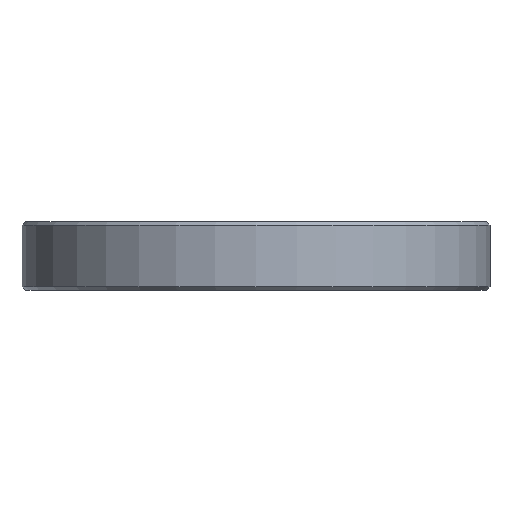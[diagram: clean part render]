
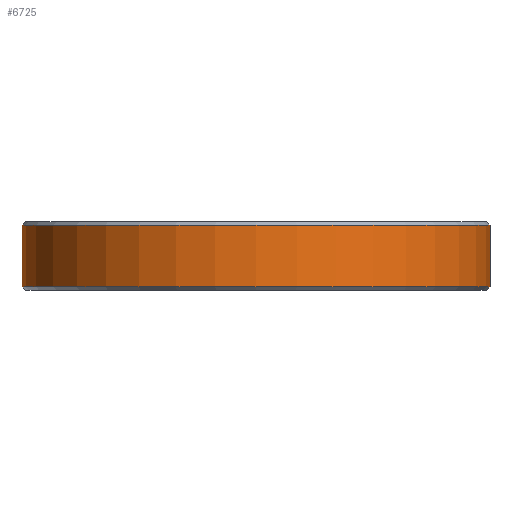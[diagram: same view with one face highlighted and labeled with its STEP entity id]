
A CAD part, front view. The second image highlights one B-rep face of the part: STEP entity #6725.
In plain terms, the highlighted cylindrical face has radius 68 mm (diameter 136 mm), a full revolution.
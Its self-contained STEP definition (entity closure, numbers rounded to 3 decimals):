
#145=CYLINDRICAL_SURFACE('',#7131,68.);
#465=FACE_OUTER_BOUND('',#845,.T.);
#845=EDGE_LOOP('',(#4444,#4445,#4446,#4447,#4448,#4449));
#1245=LINE('',#10683,#1566);
#1566=VECTOR('',#8217,68.);
#1886=CIRCLE('',#7128,68.);
#1887=CIRCLE('',#7129,68.);
#1889=CIRCLE('',#7132,68.);
#1890=CIRCLE('',#7133,68.);
#2579=VERTEX_POINT('',#10671);
#2580=VERTEX_POINT('',#10672);
#2582=VERTEX_POINT('',#10679);
#2583=VERTEX_POINT('',#10680);
#3323=EDGE_CURVE('',#2579,#2580,#1886,.T.);
#3324=EDGE_CURVE('',#2580,#2579,#1887,.T.);
#3327=EDGE_CURVE('',#2582,#2583,#1889,.T.);
#3328=EDGE_CURVE('',#2583,#2582,#1890,.T.);
#3329=EDGE_CURVE('',#2583,#2580,#1245,.T.);
#4444=ORIENTED_EDGE('',*,*,#3327,.F.);
#4445=ORIENTED_EDGE('',*,*,#3328,.F.);
#4446=ORIENTED_EDGE('',*,*,#3329,.T.);
#4447=ORIENTED_EDGE('',*,*,#3323,.F.);
#4448=ORIENTED_EDGE('',*,*,#3324,.F.);
#4449=ORIENTED_EDGE('',*,*,#3329,.F.);
#6725=ADVANCED_FACE('',(#465),#145,.T.);
#7128=AXIS2_PLACEMENT_3D('',#10673,#8204,#8205);
#7129=AXIS2_PLACEMENT_3D('',#10674,#8206,#8207);
#7131=AXIS2_PLACEMENT_3D('',#10678,#8211,#8212);
#7132=AXIS2_PLACEMENT_3D('',#10681,#8213,#8214);
#7133=AXIS2_PLACEMENT_3D('',#10682,#8215,#8216);
#8204=DIRECTION('center_axis',(0.,0.,-1.));
#8205=DIRECTION('ref_axis',(-1.,0.,0.));
#8206=DIRECTION('center_axis',(0.,0.,-1.));
#8207=DIRECTION('ref_axis',(-1.,0.,0.));
#8211=DIRECTION('center_axis',(0.,0.,1.));
#8212=DIRECTION('ref_axis',(1.,0.,0.));
#8213=DIRECTION('center_axis',(0.,0.,1.));
#8214=DIRECTION('ref_axis',(-1.,0.,0.));
#8215=DIRECTION('center_axis',(0.,0.,1.));
#8216=DIRECTION('ref_axis',(-1.,0.,0.));
#8217=DIRECTION('',(0.,0.,-1.));
#10671=CARTESIAN_POINT('',(68.,0.,1.));
#10672=CARTESIAN_POINT('',(-68.,0.,1.));
#10673=CARTESIAN_POINT('Origin',(0.,0.,1.));
#10674=CARTESIAN_POINT('Origin',(0.,0.,1.));
#10678=CARTESIAN_POINT('Origin',(0.,0.,0.));
#10679=CARTESIAN_POINT('',(68.,0.,19.));
#10680=CARTESIAN_POINT('',(-68.,0.,19.));
#10681=CARTESIAN_POINT('Origin',(0.,0.,19.));
#10682=CARTESIAN_POINT('Origin',(0.,0.,19.));
#10683=CARTESIAN_POINT('',(-68.,0.,0.));
